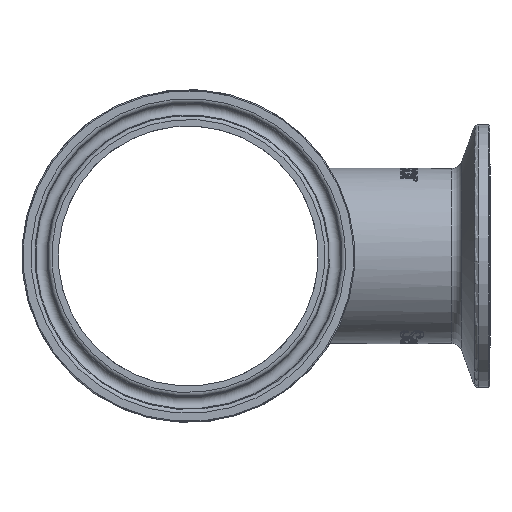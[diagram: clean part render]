
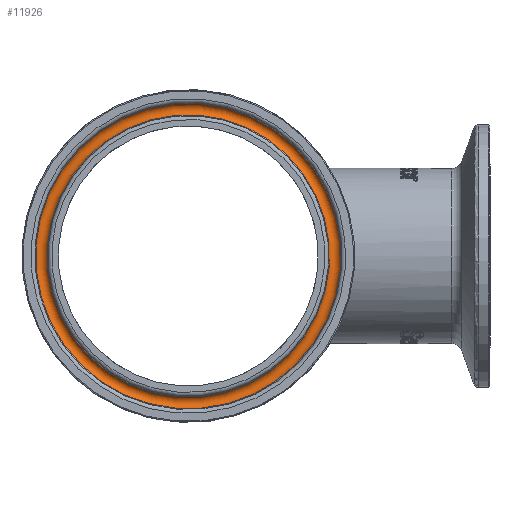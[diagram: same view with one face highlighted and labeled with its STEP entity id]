
A CAD part, left-side view. The second image highlights one B-rep face of the part: STEP entity #11926.
In plain terms, the highlighted toroidal (fillet/blend) face has major radius 28.25 mm and minor radius 1.2 mm.
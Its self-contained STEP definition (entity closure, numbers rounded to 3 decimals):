
#270=TOROIDAL_SURFACE('',#12578,28.25,1.2);
#589=CIRCLE('',#12577,27.145);
#590=CIRCLE('',#12579,29.355);
#2172=ORIENTED_EDGE('',*,*,#4662,.F.);
#2173=ORIENTED_EDGE('',*,*,#4663,.T.);
#4662=EDGE_CURVE('',#5921,#5921,#589,.T.);
#4663=EDGE_CURVE('',#5922,#5922,#590,.T.);
#5921=VERTEX_POINT('',#16440);
#5922=VERTEX_POINT('',#16443);
#7006=EDGE_LOOP('',(#2172));
#7007=EDGE_LOOP('',(#2173));
#7648=FACE_BOUND('',#7006,.T.);
#7649=FACE_BOUND('',#7007,.T.);
#11926=ADVANCED_FACE('',(#7648,#7649),#270,.F.);
#12577=AXIS2_PLACEMENT_3D('',#16439,#13344,#13345);
#12578=AXIS2_PLACEMENT_3D('',#16441,#13346,#13347);
#12579=AXIS2_PLACEMENT_3D('',#16442,#13348,#13349);
#13344=DIRECTION('',(-1.,0.,0.));
#13345=DIRECTION('',(0.,-0.079,0.997));
#13346=DIRECTION('',(-1.,0.,0.));
#13347=DIRECTION('',(0.,-0.079,0.997));
#13348=DIRECTION('',(-1.,0.,0.));
#13349=DIRECTION('',(0.,-0.079,0.997));
#16439=CARTESIAN_POINT('',(-57.631,51.,0.));
#16440=CARTESIAN_POINT('',(-57.631,48.862,27.061));
#16441=CARTESIAN_POINT('',(-58.1,51.,0.));
#16442=CARTESIAN_POINT('',(-57.631,51.,0.));
#16443=CARTESIAN_POINT('',(-57.631,48.687,29.263));
